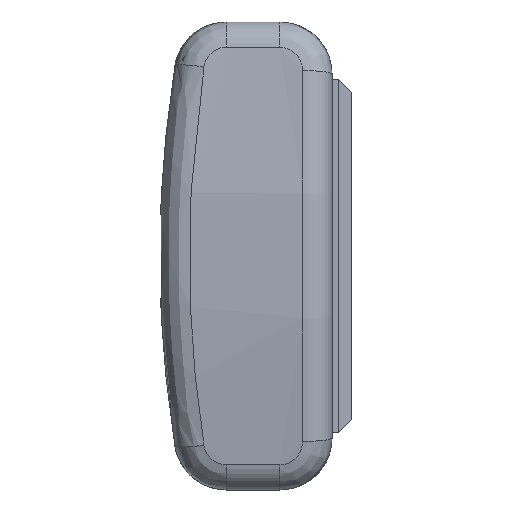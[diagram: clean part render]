
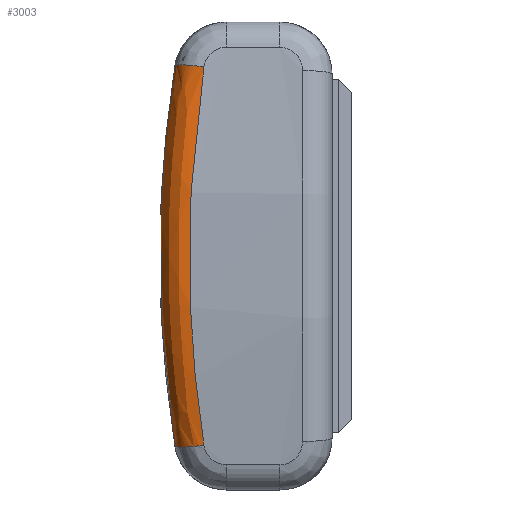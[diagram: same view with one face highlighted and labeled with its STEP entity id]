
A CAD part, left-side view. The second image highlights one B-rep face of the part: STEP entity #3003.
In plain terms, the highlighted free-form (B-spline) face has degree [3, 2] with [12, 3] control points.
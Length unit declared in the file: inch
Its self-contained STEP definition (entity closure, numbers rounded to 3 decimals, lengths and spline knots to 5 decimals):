
#1554 = CARTESIAN_POINT ( 'NONE',  ( -4.27372, 1.34868, -0.60905 ) ) ;
#1730 = CARTESIAN_POINT ( 'NONE',  ( -4.27064, 1.62611, 0.62297 ) ) ;
#1920 = CARTESIAN_POINT ( 'NONE',  ( -3.88514, 1.49975, 1.8081 ) ) ;
#3003 = ADVANCED_FACE ( 'NONE', ( #42795 ), #42144, .T. ) ;
#3067 = DIRECTION ( 'NONE',  ( -0.131, 0.155, 0.979 ) ) ;
#3075 = VERTEX_POINT ( 'NONE', #33002 ) ;
#3152 = CARTESIAN_POINT ( 'NONE',  ( -4.28405, 1.36058, -0.30377 ) ) ;
#3225 = CARTESIAN_POINT ( 'NONE',  ( -4.0028, 1.64183, -0.30532 ) ) ;
#4037 = CIRCLE ( 'NONE', #12532, 0.28125 ) ;
#5794 = CARTESIAN_POINT ( 'NONE',  ( -4.1639, 1.22195, -1.80152 ) ) ;
#5988 = CARTESIAN_POINT ( 'NONE',  ( -3.99268, 1.62963, -0.61128 ) ) ;
#6177 = CARTESIAN_POINT ( 'NONE',  ( -4.26364, 1.33706, 0.75909 ) ) ;
#7357 = EDGE_LOOP ( 'NONE', ( #52803, #56808, #45885, #35461 ) ) ;
#7613 = CARTESIAN_POINT ( 'NONE',  ( -4.23368, 1.30252, -1.20614 ) ) ;
#7685 = CARTESIAN_POINT ( 'NONE',  ( -3.99281, 1.62978, 0.60842 ) ) ;
#9031 = VERTEX_POINT ( 'NONE', #40080 ) ;
#9716 = DIRECTION ( 'NONE',  ( -0.131, 0.155, -0.979 ) ) ;
#10231 = CARTESIAN_POINT ( 'NONE',  ( -4.15823, 1.4941, -1.8438 ) ) ;
#10421 = CARTESIAN_POINT ( 'NONE',  ( -4.28405, 1.64183, -0.31352 ) ) ;
#10604 = CARTESIAN_POINT ( 'NONE',  ( -3.98281, 1.61772, 0.76186 ) ) ;
#12032 = CARTESIAN_POINT ( 'NONE',  ( -4.1639, 1.22195, -1.80152 ) ) ;
#12115 = CARTESIAN_POINT ( 'NONE',  ( -3.92404, 1.5468, 1.51057 ) ) ;
#12532 = AXIS2_PLACEMENT_3D ( 'NONE', #29513, #3067, #33961 ) ;
#14418 = VERTEX_POINT ( 'NONE', #25903 ) ;
#14664 = CARTESIAN_POINT ( 'NONE',  ( -3.88514, 1.49975, -1.8081 ) ) ;
#14864 = CARTESIAN_POINT ( 'NONE',  ( -4.28406, 1.36058, 0.15284 ) ) ;
#15002 = AXIS2_PLACEMENT_3D ( 'NONE', #36191, #9716, #40600 ) ;
#15055 = CARTESIAN_POINT ( 'NONE',  ( -4.23098, 1.57958, 1.23798 ) ) ;
#16723 = CARTESIAN_POINT ( 'NONE',  ( -3.88514, 1.49975, -1.8081 ) ) ;
#17426 = CIRCLE ( 'NONE', #15002, 0.28125 ) ;
#19123 = CARTESIAN_POINT ( 'NONE',  ( -4.19965, 1.54282, -1.54173 ) ) ;
#19315 = CARTESIAN_POINT ( 'NONE',  ( -4.00281, 1.64183, 0.15339 ) ) ;
#19495 = CARTESIAN_POINT ( 'NONE',  ( -4.20338, 1.26758, 1.50685 ) ) ;
#20775 = CARTESIAN_POINT ( 'NONE',  ( -3.88514, 1.49975, -1.8081 ) ) ;
#21130 = VERTEX_POINT ( 'NONE', #16723 ) ;
#23529 = CARTESIAN_POINT ( 'NONE',  ( -4.23338, 1.30218, -1.20944 ) ) ;
#23712 = CARTESIAN_POINT ( 'NONE',  ( -4.28135, 1.63866, 0.31253 ) ) ;
#23905 = CARTESIAN_POINT ( 'NONE',  ( -3.9238, 1.54652, 1.51236 ) ) ;
#25135 = CARTESIAN_POINT ( 'NONE',  ( -4.23368, 1.30253, 1.20612 ) ) ;
#25903 = CARTESIAN_POINT ( 'NONE',  ( -3.88514, 1.49975, 1.8081 ) ) ;
#27998 = CARTESIAN_POINT ( 'NONE',  ( -3.95318, 1.58198, -1.21386 ) ) ;
#28188 = CARTESIAN_POINT ( 'NONE',  ( -4.27126, 1.34584, 0.60826 ) ) ;
#28384 = CARTESIAN_POINT ( 'NONE',  ( -4.15823, 1.4941, 1.8438 ) ) ;
#29513 = CARTESIAN_POINT ( 'NONE',  ( -3.88514, 1.22195, -1.76417 ) ) ;
#29597 = CARTESIAN_POINT ( 'NONE',  ( -4.28406, 1.36058, 0.30356 ) ) ;
#29677 = CARTESIAN_POINT ( 'NONE',  ( -3.9928, 1.62978, -0.60855 ) ) ;
#32441 = CARTESIAN_POINT ( 'NONE',  ( -4.27325, 1.62917, -0.62337 ) ) ;
#32612 = CARTESIAN_POINT ( 'NONE',  ( -3.99028, 1.62672, 0.61048 ) ) ;
#33002 = CARTESIAN_POINT ( 'NONE',  ( -4.1639, 1.22195, 1.80152 ) ) ;
#33961 = DIRECTION ( 'NONE',  ( 0., -0.988, 0.156 ) ) ;
#34055 = CARTESIAN_POINT ( 'NONE',  ( -4.27387, 1.34885, -0.60569 ) ) ;
#34129 = CARTESIAN_POINT ( 'NONE',  ( -4.00281, 1.64184, 0.30507 ) ) ;
#35312 = EDGE_CURVE ( 'NONE', #21130, #14418, #49638, .T. ) ;
#35461 = ORIENTED_EDGE ( 'NONE', *, *, #51781, .T. ) ;
#36191 = CARTESIAN_POINT ( 'NONE',  ( -3.88514, 1.22195, 1.76417 ) ) ;
#36893 = CARTESIAN_POINT ( 'NONE',  ( -4.28405, 1.36058, -0.30606 ) ) ;
#37091 = CARTESIAN_POINT ( 'NONE',  ( -4.26265, 1.61674, 0.77736 ) ) ;
#37714 = B_SPLINE_CURVE_WITH_KNOTS ( 'NONE', 3,
 ( #42730, #46790, #25135, #56058, #29597, #3152, #34055, #7613, #38494, #12032 ),
 .UNSPECIFIED., .F., .F.,
 ( 4, 2, 2, 2, 4 ),
 ( 0.00487, 0.02787, 0.05087, 0.07387, 0.09686 ),
 .UNSPECIFIED. ) ;
#38494 = CARTESIAN_POINT ( 'NONE',  ( -4.20367, 1.26792, -1.50467 ) ) ;
#38576 = CARTESIAN_POINT ( 'NONE',  ( -3.95342, 1.58227, 1.21114 ) ) ;
#40080 = CARTESIAN_POINT ( 'NONE',  ( -4.1639, 1.22195, -1.80152 ) ) ;
#40600 = DIRECTION ( 'NONE',  ( 0., 0.988, 0.156 ) ) ;
#41317 = CARTESIAN_POINT ( 'NONE',  ( -4.0028, 1.64183, -0.30718 ) ) ;
#41503 = CARTESIAN_POINT ( 'NONE',  ( -4.23338, 1.30218, 1.20944 ) ) ;
#42144 =( BOUNDED_SURFACE ( )  B_SPLINE_SURFACE ( 3, 2, ( 
 ( #5794, #10231, #14664 ),
 ( #45552, #19123, #49972 ),
 ( #23529, #54425, #27998 ),
 ( #1554, #32441, #5988 ),
 ( #36893, #10421, #41317 ),
 ( #14864, #45732, #19315 ),
 ( #50175, #23712, #54629 ),
 ( #28188, #1730, #32612 ),
 ( #6177, #37091, #10604 ),
 ( #41503, #15055, #45916 ),
 ( #19495, #50363, #23905 ),
 ( #54805, #28384, #1920 ) ),
 .UNSPECIFIED., .F., .F., .F. ) 
 B_SPLINE_SURFACE_WITH_KNOTS ( ( 4, 2, 2, 2, 2, 4 ),
 ( 3, 3 ),
 ( 0.03574, 0.05819, 0.08064, 0.09187, 0.10309, 0.12554 ),
 ( 0., 1. ),
 .UNSPECIFIED. ) 
 GEOMETRIC_REPRESENTATION_ITEM ( )  RATIONAL_B_SPLINE_SURFACE ( (
 ( 1., 0.714, 1.),
 ( 1., 0.712, 1.),
 ( 1., 0.71, 1.),
 ( 1., 0.708, 1.),
 ( 1., 0.707, 1.),
 ( 1., 0.707, 1.),
 ( 1., 0.707, 1.),
 ( 1., 0.708, 1.),
 ( 1., 0.708, 1.),
 ( 1., 0.71, 1.),
 ( 1., 0.712, 1.),
 ( 1., 0.714, 1.) ) ) 
 REPRESENTATION_ITEM ( '' )  SURFACE ( )  );
#42730 = CARTESIAN_POINT ( 'NONE',  ( -4.1639, 1.22195, 1.80152 ) ) ;
#42795 = FACE_OUTER_BOUND ( 'NONE', #7357, .T. ) ;
#42993 = CARTESIAN_POINT ( 'NONE',  ( -3.88514, 1.49975, 1.8081 ) ) ;
#45552 = CARTESIAN_POINT ( 'NONE',  ( -4.20338, 1.26759, -1.50684 ) ) ;
#45732 = CARTESIAN_POINT ( 'NONE',  ( -4.28406, 1.64183, 0.15656 ) ) ;
#45885 = ORIENTED_EDGE ( 'NONE', *, *, #35312, .F. ) ;
#45916 = CARTESIAN_POINT ( 'NONE',  ( -3.95318, 1.58198, 1.21386 ) ) ;
#46790 = CARTESIAN_POINT ( 'NONE',  ( -4.20367, 1.26792, 1.50467 ) ) ;
#47959 = EDGE_CURVE ( 'NONE', #3075, #14418, #17426, .T. ) ;
#49468 = EDGE_CURVE ( 'NONE', #3075, #9031, #37714, .T. ) ;
#49638 = B_SPLINE_CURVE_WITH_KNOTS ( 'NONE', 3,
 ( #20775, #51662, #56128, #29677, #3225, #34129, #7685, #38576, #12115, #42993 ),
 .UNSPECIFIED., .F., .F.,
 ( 4, 2, 2, 2, 4 ),
 ( 0.01094, 0.03401, 0.05709, 0.08016, 0.10324 ),
 .UNSPECIFIED. ) ;
#49972 = CARTESIAN_POINT ( 'NONE',  ( -3.92381, 1.54652, -1.51234 ) ) ;
#50175 = CARTESIAN_POINT ( 'NONE',  ( -4.28147, 1.3576, 0.30516 ) ) ;
#50363 = CARTESIAN_POINT ( 'NONE',  ( -4.19965, 1.54282, 1.54174 ) ) ;
#51662 = CARTESIAN_POINT ( 'NONE',  ( -3.92404, 1.5468, -1.51058 ) ) ;
#51781 = EDGE_CURVE ( 'NONE', #21130, #9031, #4037, .T. ) ;
#52803 = ORIENTED_EDGE ( 'NONE', *, *, #49468, .F. ) ;
#54425 = CARTESIAN_POINT ( 'NONE',  ( -4.23098, 1.57958, -1.23797 ) ) ;
#54629 = CARTESIAN_POINT ( 'NONE',  ( -4.00028, 1.63878, 0.30628 ) ) ;
#54805 = CARTESIAN_POINT ( 'NONE',  ( -4.1639, 1.22195, 1.80152 ) ) ;
#56058 = CARTESIAN_POINT ( 'NONE',  ( -4.27387, 1.34886, 0.6056 ) ) ;
#56128 = CARTESIAN_POINT ( 'NONE',  ( -3.95342, 1.58226, -1.21118 ) ) ;
#56808 = ORIENTED_EDGE ( 'NONE', *, *, #47959, .T. ) ;
